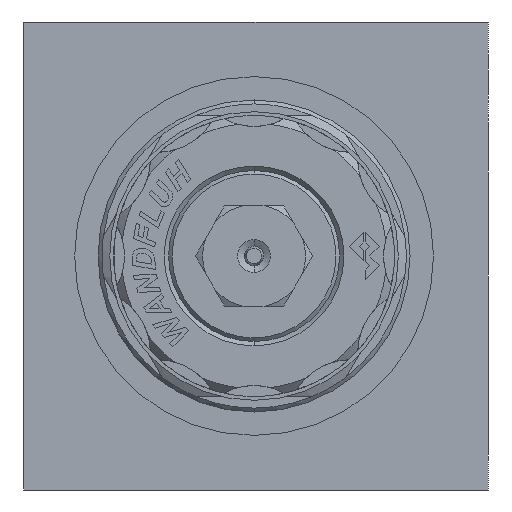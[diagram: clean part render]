
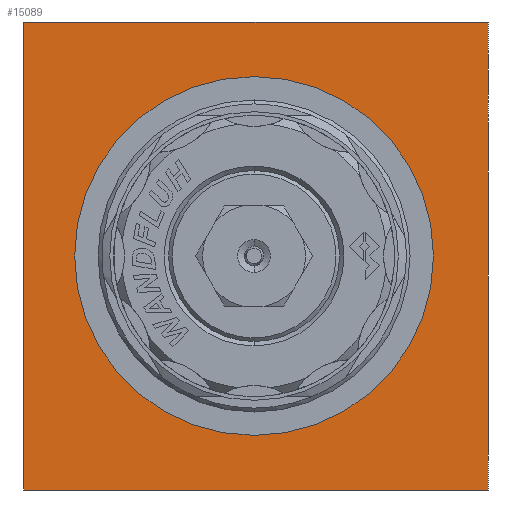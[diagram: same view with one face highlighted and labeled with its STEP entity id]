
A CAD part, left-side view. The second image highlights one B-rep face of the part: STEP entity #15089.
In plain terms, the highlighted planar face has unit normal (-1, 0, 0).
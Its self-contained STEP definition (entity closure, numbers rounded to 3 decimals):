
#1139 = ORIENTED_EDGE ( 'NONE', *, *, #2838, .F. ) ;
#1651 = CARTESIAN_POINT ( 'NONE',  ( 0., 0.25, 23. ) ) ;
#1842 = EDGE_CURVE ( 'NONE', #11248, #14183, #17974, .T. ) ;
#2378 = DIRECTION ( 'NONE',  ( 0., -1., 0. ) ) ;
#2838 = EDGE_CURVE ( 'NONE', #18129, #4317, #6863, .T. ) ;
#2854 = CARTESIAN_POINT ( 'NONE',  ( 0., -29.75, -30. ) ) ;
#3404 = AXIS2_PLACEMENT_3D ( 'NONE', #18852, #18826, #18785 ) ;
#3786 = AXIS2_PLACEMENT_3D ( 'NONE', #18945, #18925, #18879 ) ;
#3943 = DIRECTION ( 'NONE',  ( 0., 0., 1. ) ) ;
#3961 = DIRECTION ( 'NONE',  ( -1., 0., 0. ) ) ;
#3986 = CARTESIAN_POINT ( 'NONE',  ( 0., 29.75, -30. ) ) ;
#4036 = ORIENTED_EDGE ( 'NONE', *, *, #5077, .F. ) ;
#4106 = PLANE ( 'NONE',  #19162 ) ;
#4317 = VERTEX_POINT ( 'NONE', #5416 ) ;
#4504 = ORIENTED_EDGE ( 'NONE', *, *, #7391, .F. ) ;
#5077 = EDGE_CURVE ( 'NONE', #14183, #18129, #18905, .T. ) ;
#5176 = VERTEX_POINT ( 'NONE', #16961 ) ;
#5338 = CARTESIAN_POINT ( 'NONE',  ( 0., -29.75, 30. ) ) ;
#5416 = CARTESIAN_POINT ( 'NONE',  ( 0., 29.75, -30. ) ) ;
#5420 = EDGE_CURVE ( 'NONE', #8500, #5176, #12900, .T. ) ;
#6165 = CARTESIAN_POINT ( 'NONE',  ( 0., 29.75, 30. ) ) ;
#6252 = EDGE_LOOP ( 'NONE', ( #1139, #4036, #14231, #4504 ) ) ;
#6863 = LINE ( 'NONE', #16000, #13309 ) ;
#7391 = EDGE_CURVE ( 'NONE', #4317, #11248, #19281, .T. ) ;
#8500 = VERTEX_POINT ( 'NONE', #1651 ) ;
#8737 = DIRECTION ( 'NONE',  ( 0., 1., 0. ) ) ;
#8875 = ORIENTED_EDGE ( 'NONE', *, *, #5420, .F. ) ;
#11248 = VERTEX_POINT ( 'NONE', #6165 ) ;
#11430 = DIRECTION ( 'NONE',  ( 0., 0., 1. ) ) ;
#11560 = EDGE_LOOP ( 'NONE', ( #8875, #11978 ) ) ;
#11978 = ORIENTED_EDGE ( 'NONE', *, *, #13375, .F. ) ;
#12561 = CARTESIAN_POINT ( 'NONE',  ( 0., -29.75, 30. ) ) ;
#12900 = CIRCLE ( 'NONE', #3404, 23. ) ;
#13309 = VECTOR ( 'NONE', #8737, 1000. ) ;
#13375 = EDGE_CURVE ( 'NONE', #5176, #8500, #15778, .T. ) ;
#14033 = CARTESIAN_POINT ( 'NONE',  ( 0., 29.75, 30. ) ) ;
#14183 = VERTEX_POINT ( 'NONE', #12561 ) ;
#14231 = ORIENTED_EDGE ( 'NONE', *, *, #1842, .F. ) ;
#14245 = FACE_OUTER_BOUND ( 'NONE', #6252, .T. ) ;
#15089 = ADVANCED_FACE ( 'NONE', ( #14245, #18157 ), #4106, .T. ) ;
#15778 = CIRCLE ( 'NONE', #3786, 23. ) ;
#16000 = CARTESIAN_POINT ( 'NONE',  ( 0., -29.75, -30. ) ) ;
#16550 = CARTESIAN_POINT ( 'NONE',  ( 0., -29.75, 30. ) ) ;
#16657 = DIRECTION ( 'NONE',  ( 0., 0., -1. ) ) ;
#16961 = CARTESIAN_POINT ( 'NONE',  ( 0., 0.25, -23. ) ) ;
#17974 = LINE ( 'NONE', #5338, #18065 ) ;
#18065 = VECTOR ( 'NONE', #2378, 1000. ) ;
#18129 = VERTEX_POINT ( 'NONE', #2854 ) ;
#18157 = FACE_BOUND ( 'NONE', #11560, .T. ) ;
#18451 = VECTOR ( 'NONE', #16657, 1000. ) ;
#18785 = DIRECTION ( 'NONE',  ( 0., 0., 1. ) ) ;
#18826 = DIRECTION ( 'NONE',  ( -1., 0., 0. ) ) ;
#18852 = CARTESIAN_POINT ( 'NONE',  ( 0., 0.25, 0. ) ) ;
#18879 = DIRECTION ( 'NONE',  ( 0., 0., 1. ) ) ;
#18905 = LINE ( 'NONE', #16550, #18451 ) ;
#18925 = DIRECTION ( 'NONE',  ( -1., 0., 0. ) ) ;
#18945 = CARTESIAN_POINT ( 'NONE',  ( 0., 0.25, 0. ) ) ;
#19162 = AXIS2_PLACEMENT_3D ( 'NONE', #3986, #3961, #3943 ) ;
#19281 = LINE ( 'NONE', #14033, #19301 ) ;
#19301 = VECTOR ( 'NONE', #11430, 1000. ) ;
